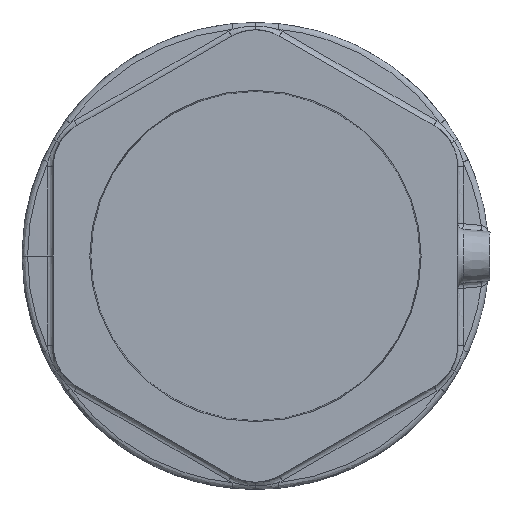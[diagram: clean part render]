
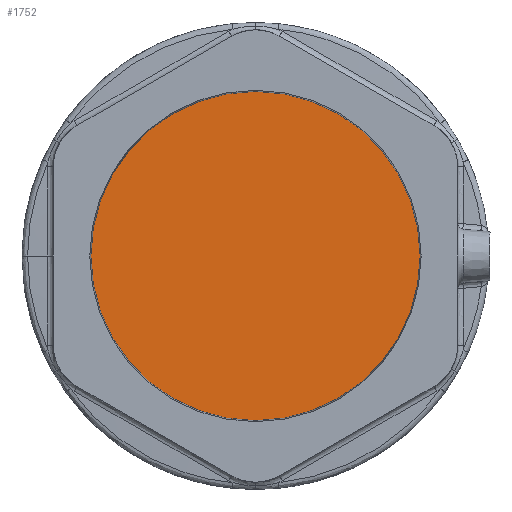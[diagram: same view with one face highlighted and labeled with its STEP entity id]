
A CAD part, front view. The second image highlights one B-rep face of the part: STEP entity #1752.
In plain terms, the highlighted planar face has unit normal (0, -1, 0).
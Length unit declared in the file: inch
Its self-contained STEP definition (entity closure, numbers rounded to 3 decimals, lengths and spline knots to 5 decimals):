
#397 = AXIS2_PLACEMENT_3D ( 'NONE', #1572, #4725, #2022 ) ;
#1572 = CARTESIAN_POINT ( 'NONE',  ( 1.74171, -0.25, 0. ) ) ;
#1752 = ADVANCED_FACE ( 'NONE', ( #3905 ), #5579, .T. ) ;
#1905 = CARTESIAN_POINT ( 'NONE',  ( 0., -0.25, 0. ) ) ;
#2022 = DIRECTION ( 'NONE',  ( 0., 0., -1. ) ) ;
#2083 = EDGE_CURVE ( 'NONE', #4593, #2356, #3489, .T. ) ;
#2356 = VERTEX_POINT ( 'NONE', #2569 ) ;
#2358 = DIRECTION ( 'NONE',  ( 0., 0., -1. ) ) ;
#2569 = CARTESIAN_POINT ( 'NONE',  ( 0., -0.25, -1.74171 ) ) ;
#2622 = DIRECTION ( 'NONE',  ( 0., -1., 0. ) ) ;
#2729 = AXIS2_PLACEMENT_3D ( 'NONE', #1905, #5059, #2358 ) ;
#3489 = CIRCLE ( 'NONE', #4037, 1.74171 ) ;
#3898 = CARTESIAN_POINT ( 'NONE',  ( 0., -0.25, 1.74171 ) ) ;
#3905 = FACE_OUTER_BOUND ( 'NONE', #5656, .T. ) ;
#4037 = AXIS2_PLACEMENT_3D ( 'NONE', #5309, #2622, #5752 ) ;
#4041 = CIRCLE ( 'NONE', #2729, 1.74171 ) ;
#4066 = ORIENTED_EDGE ( 'NONE', *, *, #2083, .T. ) ;
#4453 = ORIENTED_EDGE ( 'NONE', *, *, #4807, .T. ) ;
#4593 = VERTEX_POINT ( 'NONE', #3898 ) ;
#4725 = DIRECTION ( 'NONE',  ( 0., -1., 0. ) ) ;
#4807 = EDGE_CURVE ( 'NONE', #2356, #4593, #4041, .T. ) ;
#5059 = DIRECTION ( 'NONE',  ( 0., -1., 0. ) ) ;
#5309 = CARTESIAN_POINT ( 'NONE',  ( 0., -0.25, 0. ) ) ;
#5579 = PLANE ( 'NONE',  #397 ) ;
#5656 = EDGE_LOOP ( 'NONE', ( #4453, #4066 ) ) ;
#5752 = DIRECTION ( 'NONE',  ( 0., 0., -1. ) ) ;
